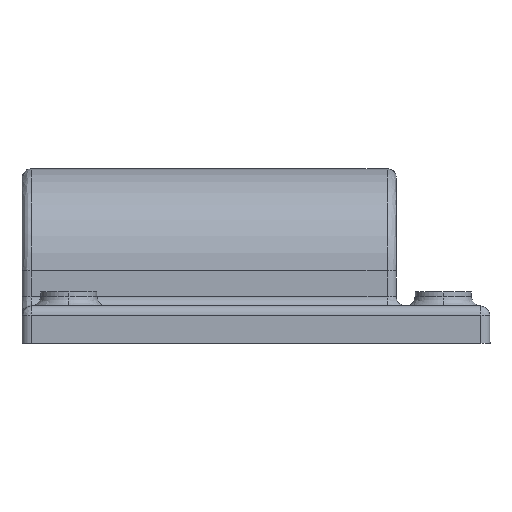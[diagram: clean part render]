
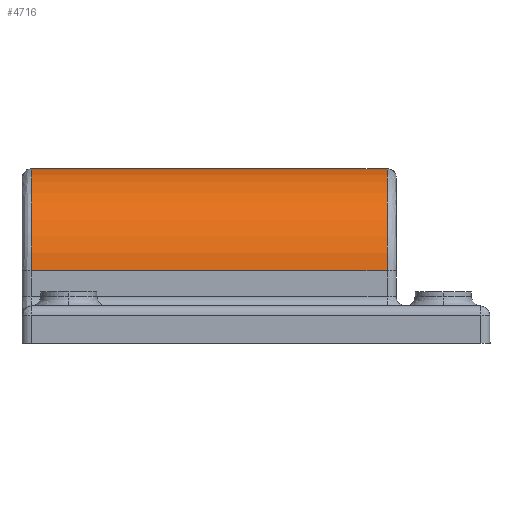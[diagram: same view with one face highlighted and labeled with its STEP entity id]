
A CAD part, left-side view. The second image highlights one B-rep face of the part: STEP entity #4716.
In plain terms, the highlighted cylindrical face has radius 32.75 mm (diameter 65.5 mm), a partial arc.
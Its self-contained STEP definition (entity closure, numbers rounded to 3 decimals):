
#231 = CARTESIAN_POINT ( 'NONE',  ( 0., 72., 23.25 ) ) ;
#710 = FACE_OUTER_BOUND ( 'NONE', #972, .T. ) ;
#972 = EDGE_LOOP ( 'NONE', ( #3104, #4299, #5361, #5351 ) ) ;
#1942 = CYLINDRICAL_SURFACE ( 'NONE', #7720, 32.75 ) ;
#2316 = DIRECTION ( 'NONE',  ( 0., 1., 0. ) ) ;
#2628 = CIRCLE ( 'NONE', #10703, 32.75 ) ;
#2831 = VERTEX_POINT ( 'NONE', #3432 ) ;
#3104 = ORIENTED_EDGE ( 'NONE', *, *, #3361, .T. ) ;
#3165 = DIRECTION ( 'NONE',  ( 0., 1., 0. ) ) ;
#3249 = EDGE_CURVE ( 'NONE', #8181, #11210, #2628, .T. ) ;
#3303 = CARTESIAN_POINT ( 'NONE',  ( 0., 72., 56. ) ) ;
#3361 = EDGE_CURVE ( 'NONE', #14112, #2831, #5156, .T. ) ;
#3432 = CARTESIAN_POINT ( 'NONE',  ( 0., -42., 56. ) ) ;
#3571 = CARTESIAN_POINT ( 'NONE',  ( -32.75, -45., 23.25 ) ) ;
#3580 = EDGE_CURVE ( 'NONE', #2831, #11210, #14174, .T. ) ;
#4299 = ORIENTED_EDGE ( 'NONE', *, *, #3580, .T. ) ;
#4323 = EDGE_CURVE ( 'NONE', #14112, #8181, #7099, .T. ) ;
#4482 = VECTOR ( 'NONE', #10149, 1000. ) ;
#4716 = ADVANCED_FACE ( 'Face1', ( #710 ), #1942, .T. ) ;
#5156 = CIRCLE ( 'NONE', #9092, 32.75 ) ;
#5351 = ORIENTED_EDGE ( 'NONE', *, *, #4323, .F. ) ;
#5361 = ORIENTED_EDGE ( 'NONE', *, *, #3249, .F. ) ;
#5398 = CARTESIAN_POINT ( 'NONE',  ( 0., -45., 23.25 ) ) ;
#5784 = DIRECTION ( 'NONE',  ( 0., 0., -1. ) ) ;
#7013 = CARTESIAN_POINT ( 'NONE',  ( 0., -42., 23.25 ) ) ;
#7099 = LINE ( 'NONE', #3571, #4482 ) ;
#7219 = DIRECTION ( 'NONE',  ( 0., 0., 1. ) ) ;
#7431 = DIRECTION ( 'NONE',  ( 0., 1., 0. ) ) ;
#7720 = AXIS2_PLACEMENT_3D ( 'NONE', #5398, #3165, #11977 ) ;
#8181 = VERTEX_POINT ( 'NONE', #13894 ) ;
#8405 = CARTESIAN_POINT ( 'NONE',  ( -32.75, -42., 23.25 ) ) ;
#8588 = CARTESIAN_POINT ( 'NONE',  ( 0., -45., 56. ) ) ;
#9092 = AXIS2_PLACEMENT_3D ( 'NONE', #7013, #9258, #7219 ) ;
#9258 = DIRECTION ( 'NONE',  ( 0., 1., 0. ) ) ;
#10149 = DIRECTION ( 'NONE',  ( 0., 1., 0. ) ) ;
#10703 = AXIS2_PLACEMENT_3D ( 'NONE', #231, #2316, #5784 ) ;
#11210 = VERTEX_POINT ( 'NONE', #3303 ) ;
#11977 = DIRECTION ( 'NONE',  ( 0., 0., 1. ) ) ;
#13470 = VECTOR ( 'NONE', #7431, 1000. ) ;
#13894 = CARTESIAN_POINT ( 'NONE',  ( -32.75, 72., 23.25 ) ) ;
#14112 = VERTEX_POINT ( 'NONE', #8405 ) ;
#14174 = LINE ( 'NONE', #8588, #13470 ) ;
